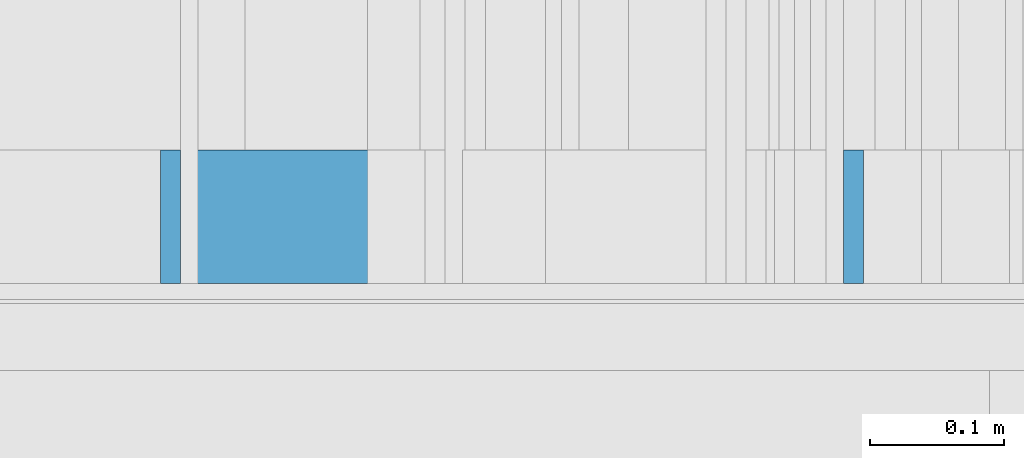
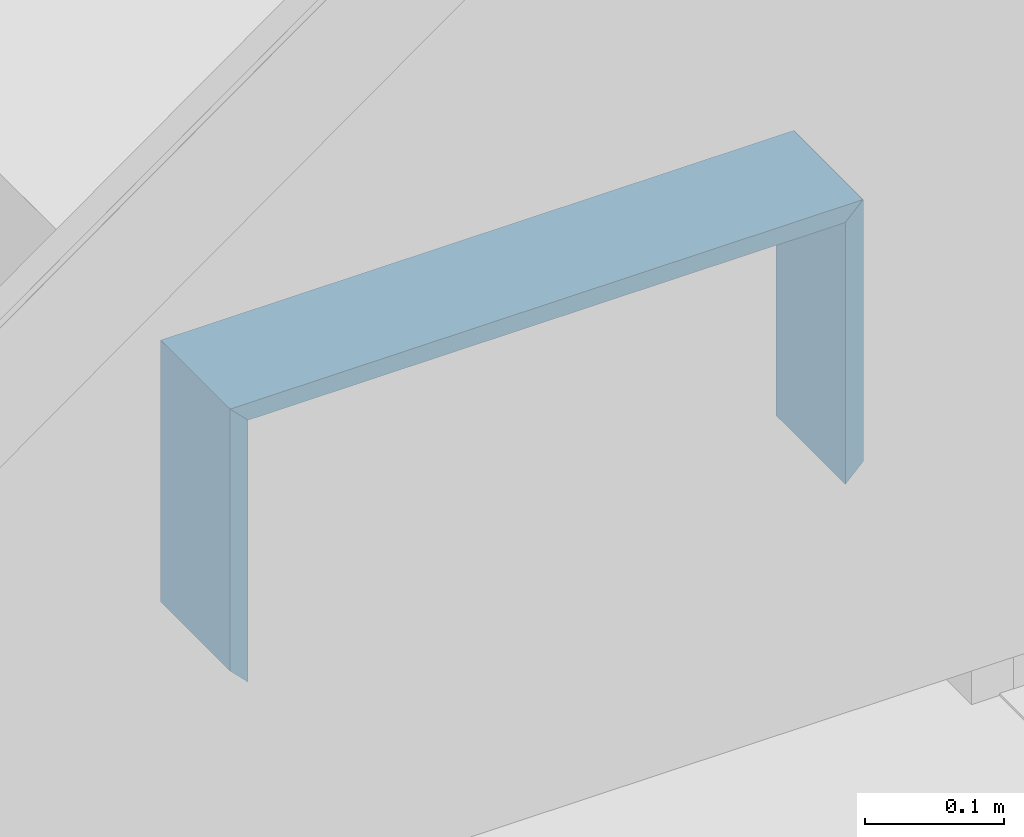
# One storey, part 213 of 583: 3 building element parts, 3 elements without a shape of their own.
"""IFC2X3 building model written with IfcOpenShell, lengths in metres."""

import ifcopenshell
import ifcopenshell.guid

model = None  # the IFC model being written
_history = None  # IfcOwnerHistory: only IFC2X3 demands one
_inside = {}  # id of a spatial element -> (the spatial element, [elements in it])
_under = {}  # id of a project, library or spatial element -> (it, [spatial elements below it])
_declared = {}  # id of a project -> (the project, [libraries it declares])
_typed = {}  # id of a type object -> (the type object, [elements of that type])
_made_of = {}  # id of a material, layer set ... -> (it, [elements and type objects made of it])


def new_model(schema):
    """Start an empty IFC model of exactly this schema.

    Asked for "IFC4X3", IfcOpenShell would pick the latest addendum, in which some entities
    have other attributes; the version numbers below select the first issue.
    IFC2X3 requires an IfcOwnerHistory on every rooted entity: one is made here for all.
    """
    global model, _history
    if schema == "IFC4X3":
        model = ifcopenshell.file(schema_version=(4, 3, 0, 0))
    else:
        model = ifcopenshell.file(schema=schema)
    _inside.clear()
    _under.clear()
    _declared.clear()
    _typed.clear()
    _made_of.clear()
    _history = None
    if model.schema == "IFC2X3":
        org = make("IfcOrganization", Name="unknown")
        user = make(
            "IfcPersonAndOrganization",
            ThePerson=make("IfcPerson", FamilyName="unknown"),
            TheOrganization=org,
        )
        app = make(
            "IfcApplication",
            ApplicationDeveloper=org,
            Version="unknown",
            ApplicationFullName="unknown",
            ApplicationIdentifier="unknown",
        )
        _history = make(
            "IfcOwnerHistory",
            OwningUser=user,
            OwningApplication=app,
            ChangeAction="ADDED",
            CreationDate=0,
        )
    return model


def make(cls, **values):
    """One entity of the class cls with the attributes given. An attribute that is None is left unset."""
    return model.create_entity(
        cls, **{name: value for name, value in values.items() if value is not None}
    )


def entity(cls, *values):
    """Any entity or typed value of the class cls, its attributes in the order of the schema. None: left unset."""
    e = model.create_entity(cls)
    for i, value in enumerate(values):
        if value is not None:
            e[i] = value
    return e


def rooted(cls, **values):
    """An entity with a GlobalId (a new one), such as an element, a storey or a relation."""
    return make(cls, GlobalId=ifcopenshell.guid.new(), OwnerHistory=_history, **values)


def si_unit(unit_type, name, prefix=None):
    """IfcSIUnit, for example si_unit("LENGTHUNIT", "METRE", prefix="MILLI")."""
    return make("IfcSIUnit", UnitType=unit_type, Prefix=prefix, Name=name)


def converted_unit(unit_type, name, factor, base, dimensions=None, offset=None):
    """IfcConversionBasedUnit, such as the inch: factor (a typed value) times the base unit."""
    return make(
        "IfcConversionBasedUnit"
        if offset is None
        else "IfcConversionBasedUnitWithOffset",
        ConversionOffset=offset,
        Dimensions=None
        if dimensions is None
        else entity("IfcDimensionalExponents", *dimensions),
        UnitType=unit_type,
        Name=name,
        ConversionFactor=make(
            "IfcMeasureWithUnit", ValueComponent=factor, UnitComponent=base
        ),
    )


def derived_unit(unit_type, elements):
    """IfcDerivedUnit: a product of units, each with its exponent."""
    return make(
        "IfcDerivedUnit",
        Elements=[
            make("IfcDerivedUnitElement", Unit=unit, Exponent=power)
            for unit, power in elements
        ],
        UnitType=unit_type,
    )


def money_unit(currency):
    """IfcMonetaryUnit."""
    return make("IfcMonetaryUnit", Currency=currency)


def assignment(units):
    """IfcUnitAssignment: the units of a project."""
    return None if units is None else make("IfcUnitAssignment", Units=units)


def point(xyz):
    """IfcCartesianPoint."""
    return None if xyz is None else make("IfcCartesianPoint", Coordinates=xyz)


def direction(xyz):
    """IfcDirection."""
    return None if xyz is None else make("IfcDirection", DirectionRatios=xyz)


def frame(location, z_axis=None, x_axis=None):
    """IfcAxis2Placement3D, a coordinate frame: its origin and axes. An axis left out is left unset."""
    return make(
        "IfcAxis2Placement3D",
        Location=point(location),
        Axis=direction(z_axis),
        RefDirection=direction(x_axis),
    )


def origin_with_axes():
    """The frame at (0, 0, 0) with the z axis (0, 0, 1) and the x axis (1, 0, 0) written out."""
    return frame((0.0, 0.0, 0.0), z_axis=(0.0, 0.0, 1.0), x_axis=(1.0, 0.0, 0.0))


def place(relative_to, where):
    """IfcLocalPlacement: puts the frame where relative to a parent placement (None: the world)."""
    return make(
        "IfcLocalPlacement", PlacementRelTo=relative_to, RelativePlacement=where
    )


def context(
    kind, dimensions, precision=None, world=None, true_north=None, identifier=None
):
    """IfcGeometricRepresentationContext, for example the 3D "Model" context."""
    return make(
        "IfcGeometricRepresentationContext",
        ContextIdentifier=identifier,
        ContextType=kind,
        CoordinateSpaceDimension=dimensions,
        Precision=precision,
        WorldCoordinateSystem=world,
        TrueNorth=true_north,
    )


def subcontext(parent, identifier, kind, view, scale=None):
    """IfcGeometricRepresentationSubContext, for example "Body" below "Model"."""
    return make(
        "IfcGeometricRepresentationSubContext",
        ContextIdentifier=identifier,
        ContextType=kind,
        ParentContext=parent,
        TargetScale=scale,
        TargetView=view,
    )


def project(units=None, contexts=None):
    """IfcProject with its units and contexts."""
    return rooted(
        "IfcProject",
        Name="project",
        RepresentationContexts=contexts,
        UnitsInContext=assignment(units),
    )


def spatial(cls, under=None, at=None, **own):
    """A site, building, storey or space (cls), placed at a placement, below another one or the project."""
    s = rooted(cls, ObjectPlacement=at, **own)
    if under is not None:
        _under.setdefault(under.id(), (under, []))[1].append(s)
    return s


def polyline(points):
    """IfcPolyline through the points."""
    return make("IfcPolyline", Points=[point(p) for p in points])


def outline(outer, holes=None, kind="AREA"):
    """IfcArbitraryClosedProfileDef: a profile drawn as a closed curve; with holes, ...WithVoids."""
    if holes is None:
        return make("IfcArbitraryClosedProfileDef", ProfileType=kind, OuterCurve=outer)
    return make(
        "IfcArbitraryProfileDefWithVoids",
        ProfileType=kind,
        OuterCurve=outer,
        InnerCurves=holes,
    )


def extrude(swept, where, along, depth):
    """IfcExtrudedAreaSolid: the profile swept, set in the frame where, extruded along a direction by depth."""
    return make(
        "IfcExtrudedAreaSolid",
        SweptArea=swept,
        Position=where,
        ExtrudedDirection=direction(along),
        Depth=depth,
    )


def shape(context_of_items, identifier, shape_type, items):
    """IfcShapeRepresentation: the items that make up one representation, for example the "Body"."""
    return make(
        "IfcShapeRepresentation",
        ContextOfItems=context_of_items,
        RepresentationIdentifier=identifier,
        RepresentationType=shape_type,
        Items=items,
    )


def material(Name=None, Category=None):
    """IfcMaterial."""
    return make("IfcMaterial", Name=Name, Category=Category)


def made_of(thing, what):
    """Note that an element or type object is made of a material, layer set ...; save() writes the relation."""
    if what is not None:
        _made_of.setdefault(what.id(), (what, []))[1].append(thing)
    return thing


def type_object(cls, material=None, **own):
    """A type object (cls), such as IfcWallType, which elements share."""
    return made_of(rooted(cls, **own), material)


def element(
    cls,
    number,
    at=None,
    inside=None,
    cuts=None,
    type_object=None,
    material=None,
    context=None,
    identifier="Body",
    shape_type=None,
    held_by="IfcProductDefinitionShape",
    body=None,
    shapes=None,
    **own,
):
    """One element of the class cls, such as IfcWall. Its Tag is "e" and its number.

    at: its placement. inside: the storey or other place that contains it. cuts: it is an
    opening in that element (IfcRelVoidsElement). A single representation is given by context,
    identifier, shape_type and body (its items); several are given by shapes. held_by: the class
    of the entity that holds the representations. save() writes the other relations.
    """
    e = rooted(cls, Tag="e%d" % number, ObjectPlacement=at, **own)
    if body is not None:
        shapes = [shape(context, identifier, shape_type, body)]
    if shapes is not None:
        e.Representation = make(held_by, Representations=shapes)
    if inside is not None:
        _inside.setdefault(inside.id(), (inside, []))[1].append(e)
    if cuts is not None:
        rooted(
            "IfcRelVoidsElement", RelatingBuildingElement=cuts, RelatedOpeningElement=e
        )
    if type_object is not None:
        _typed.setdefault(type_object.id(), (type_object, []))[1].append(e)
    return made_of(e, material)


def aggregate(whole, parts):
    """IfcRelAggregates: a whole, such as a stair, and the parts it consists of."""
    return rooted("IfcRelAggregates", RelatingObject=whole, RelatedObjects=parts)


def save(model, path):
    """Write the relations noted so far, then the file.

    IfcRelAggregates (storeys below a building ...), IfcRelContainedInSpatialStructure (elements
    in a storey), IfcRelDefinesByType, IfcRelAssociatesMaterial and IfcRelDeclares: one each for
    every whole, place, type object, material and project.
    """
    for whole, parts in _under.values():
        aggregate(whole, parts)
    for where, things in _inside.values():
        rooted(
            "IfcRelContainedInSpatialStructure",
            RelatedElements=things,
            RelatingStructure=where,
        )
    for kind, things in _typed.values():
        rooted("IfcRelDefinesByType", RelatedObjects=things, RelatingType=kind)
    for what, things in _made_of.values():
        rooted("IfcRelAssociatesMaterial", RelatedObjects=things, RelatingMaterial=what)
    for by, libraries in _declared.values():
        rooted("IfcRelDeclares", RelatingContext=by, RelatedDefinitions=libraries)
    model.write(path)


model = new_model("IFC2X3")

# Units and contexts
model_context = context("Model", 3, precision=1e-05, world=origin_with_axes(), true_north=direction((0.0, 1.0)))
body_context = subcontext(model_context, "Body", "Model", "MODEL_VIEW", scale=1.0)
ifc_project = project(units=[si_unit("LENGTHUNIT", "METRE"), si_unit("AREAUNIT", "SQUARE_METRE"), si_unit("VOLUMEUNIT", "CUBIC_METRE"), si_unit("ABSORBEDDOSEUNIT", "GRAY"), si_unit("AMOUNTOFSUBSTANCEUNIT", "MOLE"), si_unit("DOSEEQUIVALENTUNIT", "SIEVERT"), si_unit("ELECTRICCAPACITANCEUNIT", "FARAD"), si_unit("ELECTRICCHARGEUNIT", "COULOMB"), si_unit("ELECTRICCONDUCTANCEUNIT", "SIEMENS"), si_unit("ELECTRICCURRENTUNIT", "AMPERE"), si_unit("ELECTRICRESISTANCEUNIT", "OHM"), si_unit("ELECTRICVOLTAGEUNIT", "VOLT"), si_unit("ENERGYUNIT", "JOULE"), si_unit("FORCEUNIT", "NEWTON"), si_unit("FREQUENCYUNIT", "HERTZ"), si_unit("ILLUMINANCEUNIT", "LUX"), si_unit("INDUCTANCEUNIT", "HENRY"), si_unit("LUMINOUSFLUXUNIT", "LUMEN"), si_unit("LUMINOUSINTENSITYUNIT", "CANDELA"), si_unit("MAGNETICFLUXDENSITYUNIT", "TESLA"), si_unit("MAGNETICFLUXUNIT", "WEBER"), si_unit("MASSUNIT", "GRAM"), converted_unit("PLANEANGLEUNIT", "degree", entity("IfcReal", 0.0174532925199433), si_unit("PLANEANGLEUNIT", "RADIAN"), dimensions=[0, 0, 0, 0, 0, 0, 0]), si_unit("POWERUNIT", "WATT"), si_unit("PRESSUREUNIT", "PASCAL"), si_unit("RADIOACTIVITYUNIT", "BECQUEREL"), si_unit("SOLIDANGLEUNIT", "STERADIAN"), si_unit("THERMODYNAMICTEMPERATUREUNIT", "KELVIN"), si_unit("TIMEUNIT", "SECOND"), derived_unit("ACCELERATIONUNIT", [(si_unit("LENGTHUNIT", "METRE"), 1), (si_unit("TIMEUNIT", "SECOND"), -2)]), derived_unit("ANGULARVELOCITYUNIT", [(converted_unit("PLANEANGLEUNIT", "degree", entity("IfcReal", 0.0174532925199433), si_unit("PLANEANGLEUNIT", "RADIAN"), dimensions=[0, 0, 0, 0, 0, 0, 0]), 1), (si_unit("TIMEUNIT", "SECOND"), -1)]), derived_unit("CURVATUREUNIT", [(converted_unit("PLANEANGLEUNIT", "degree", entity("IfcReal", 0.0174532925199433), si_unit("PLANEANGLEUNIT", "RADIAN"), dimensions=[0, 0, 0, 0, 0, 0, 0]), 1), (si_unit("LENGTHUNIT", "METRE"), -1)]), derived_unit("DYNAMICVISCOSITYUNIT", [(si_unit("PRESSUREUNIT", "PASCAL"), 1), (si_unit("TIMEUNIT", "SECOND"), 1)]), derived_unit("HEATFLUXDENSITYUNIT", [(si_unit("POWERUNIT", "WATT"), 1), (si_unit("LENGTHUNIT", "METRE"), -2)]), derived_unit("HEATINGVALUEUNIT", [(si_unit("ENERGYUNIT", "JOULE"), 1), (si_unit("MASSUNIT", "GRAM"), -1)]), derived_unit("INTEGERCOUNTRATEUNIT", [(si_unit("TIMEUNIT", "SECOND"), -1)]), derived_unit("IONCONCENTRATIONUNIT", [(si_unit("MASSUNIT", "GRAM"), 1), (si_unit("VOLUMEUNIT", "CUBIC_METRE"), -1)]), derived_unit("ISOTHERMALMOISTURECAPACITYUNIT", [(si_unit("VOLUMEUNIT", "CUBIC_METRE"), 1), (si_unit("MASSUNIT", "GRAM"), -1)]), derived_unit("KINEMATICVISCOSITYUNIT", [(si_unit("AREAUNIT", "SQUARE_METRE"), 1), (si_unit("TIMEUNIT", "SECOND"), -1)]), derived_unit("LINEARFORCEUNIT", [(si_unit("FORCEUNIT", "NEWTON"), 1), (si_unit("LENGTHUNIT", "METRE"), -1)]), derived_unit("LINEARMOMENTUNIT", [(si_unit("FORCEUNIT", "NEWTON"), 1), (si_unit("LENGTHUNIT", "METRE"), -1)]), derived_unit("LINEARSTIFFNESSUNIT", [(si_unit("FORCEUNIT", "NEWTON"), 1), (si_unit("LENGTHUNIT", "METRE"), -1)]), derived_unit("LINEARVELOCITYUNIT", [(si_unit("LENGTHUNIT", "METRE"), 1), (si_unit("TIMEUNIT", "SECOND"), -1)]), derived_unit("LUMINOUSINTENSITYDISTRIBUTIONUNIT", [(si_unit("LUMINOUSINTENSITYUNIT", "CANDELA"), 1), (si_unit("LUMINOUSFLUXUNIT", "LUMEN"), -1)]), derived_unit("MASSDENSITYUNIT", [(si_unit("MASSUNIT", "GRAM"), 1), (si_unit("VOLUMEUNIT", "CUBIC_METRE"), -1)]), derived_unit("MASSFLOWRATEUNIT", [(si_unit("MASSUNIT", "GRAM"), 1), (si_unit("TIMEUNIT", "SECOND"), -1)]), derived_unit("MASSPERLENGTHUNIT", [(si_unit("MASSUNIT", "GRAM"), 1), (si_unit("LENGTHUNIT", "METRE"), -1)]), derived_unit("MODULUSOFELASTICITYUNIT", [(si_unit("FORCEUNIT", "NEWTON"), 1), (si_unit("AREAUNIT", "SQUARE_METRE"), -1)]), derived_unit("MODULUSOFLINEARSUBGRADEREACTIONUNIT", [(si_unit("FORCEUNIT", "NEWTON"), 1), (si_unit("LENGTHUNIT", "METRE"), -2)]), derived_unit("MODULUSOFROTATIONALSUBGRADEREACTIONUNIT", [(si_unit("FORCEUNIT", "NEWTON"), 1), (si_unit("LENGTHUNIT", "METRE"), 1)]), derived_unit("MODULUSOFSUBGRADEREACTIONUNIT", [(si_unit("FORCEUNIT", "NEWTON"), 1), (si_unit("VOLUMEUNIT", "CUBIC_METRE"), -1)]), derived_unit("MOISTUREDIFFUSIVITYUNIT", [(si_unit("VOLUMEUNIT", "CUBIC_METRE"), 1), (si_unit("TIMEUNIT", "SECOND"), -1)]), derived_unit("MOLECULARWEIGHTUNIT", [(si_unit("MASSUNIT", "GRAM"), 1), (si_unit("AMOUNTOFSUBSTANCEUNIT", "MOLE"), -1)]), derived_unit("PLANARFORCEUNIT", [(si_unit("FORCEUNIT", "NEWTON"), 1), (si_unit("LENGTHUNIT", "METRE"), -2)]), derived_unit("ROTATIONALFREQUENCYUNIT", [(si_unit("TIMEUNIT", "SECOND"), -1)]), derived_unit("ROTATIONALMASSUNIT", [(si_unit("MASSUNIT", "GRAM"), 1), (si_unit("LENGTHUNIT", "METRE"), 2)]), derived_unit("ROTATIONALSTIFFNESSUNIT", [(si_unit("FORCEUNIT", "NEWTON"), 1), (si_unit("LENGTHUNIT", "METRE"), 1), (converted_unit("PLANEANGLEUNIT", "degree", entity("IfcReal", 0.0174532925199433), si_unit("PLANEANGLEUNIT", "RADIAN"), dimensions=[0, 0, 0, 0, 0, 0, 0]), -1)]), derived_unit("SECTIONAREAINTEGRALUNIT", [(si_unit("LENGTHUNIT", "METRE"), 5)]), derived_unit("SECTIONMODULUSUNIT", [(si_unit("LENGTHUNIT", "METRE"), 3)]), derived_unit("SHEARMODULUSUNIT", [(si_unit("FORCEUNIT", "NEWTON"), 1), (si_unit("AREAUNIT", "SQUARE_METRE"), -1)]), derived_unit("SOUNDPOWERUNIT", [(si_unit("ENERGYUNIT", "JOULE"), 1), (si_unit("TIMEUNIT", "SECOND"), -1)]), derived_unit("SPECIFICHEATCAPACITYUNIT", [(si_unit("FORCEUNIT", "NEWTON"), 1), (si_unit("MASSUNIT", "GRAM"), -1), (si_unit("THERMODYNAMICTEMPERATUREUNIT", "KELVIN"), -1)]), derived_unit("TEMPERATUREGRADIENTUNIT", [(si_unit("THERMODYNAMICTEMPERATUREUNIT", "KELVIN"), 1), (si_unit("LENGTHUNIT", "METRE"), -1)]), derived_unit("THERMALADMITTANCEUNIT", [(si_unit("POWERUNIT", "WATT"), 1), (si_unit("AREAUNIT", "SQUARE_METRE"), -1), (si_unit("THERMODYNAMICTEMPERATUREUNIT", "KELVIN"), -1)]), derived_unit("THERMALCONDUCTANCEUNIT", [(si_unit("POWERUNIT", "WATT"), 1), (si_unit("LENGTHUNIT", "METRE"), -1), (si_unit("THERMODYNAMICTEMPERATUREUNIT", "KELVIN"), -1)]), derived_unit("THERMALEXPANSIONCOEFFICIENTUNIT", [(si_unit("THERMODYNAMICTEMPERATUREUNIT", "KELVIN"), -1)]), derived_unit("THERMALRESISTANCEUNIT", [(si_unit("AREAUNIT", "SQUARE_METRE"), 1), (si_unit("POWERUNIT", "WATT"), -1)]), derived_unit("THERMALTRANSMITTANCEUNIT", [(si_unit("POWERUNIT", "WATT"), 1), (si_unit("AREAUNIT", "SQUARE_METRE"), -1), (si_unit("THERMODYNAMICTEMPERATUREUNIT", "KELVIN"), -1)]), derived_unit("TORQUEUNIT", [(si_unit("FORCEUNIT", "NEWTON"), 1), (si_unit("LENGTHUNIT", "METRE"), 1)]), derived_unit("VAPORPERMEABILITYUNIT", [(si_unit("MASSUNIT", "GRAM"), 1), (si_unit("TIMEUNIT", "SECOND"), -1)]), derived_unit("VOLUMETRICFLOWRATEUNIT", [(si_unit("VOLUMEUNIT", "CUBIC_METRE"), 1), (si_unit("TIMEUNIT", "SECOND"), -1)]), derived_unit("WARPINGCONSTANTUNIT", [(si_unit("LENGTHUNIT", "METRE"), 6)]), derived_unit("WARPINGMOMENTUNIT", [(si_unit("FORCEUNIT", "NEWTON"), 1), (si_unit("LENGTHUNIT", "METRE"), 2)]), money_unit("GBP")], contexts=[model_context])

# Site, building, storey
site_placement = place(None, origin_with_axes())
site = spatial("IfcSite", under=ifc_project, at=site_placement, Name="Site", CompositionType="ELEMENT")
building_placement = place(site_placement, origin_with_axes())
building = spatial("IfcBuilding", under=site, at=building_placement, Name="Building01", CompositionType="ELEMENT")
storey_placement = place(building_placement, frame((0.0, 0.0, 20.78), z_axis=(0.0, 0.0, 1.0), x_axis=(1.0, 0.0, 0.0)))
storey = spatial("IfcBuildingStorey", under=building, at=storey_placement, Name="RL", CompositionType="ELEMENT", Elevation=20.78)

# Wall, building element part
wall_type = type_object("IfcWallType", Name="SHE_A-Walls_Type06d_ExternalWallInsulation_48mm", PredefinedType="NOTDEFINED")
wall_1_placement = place(storey_placement, frame((6.5, 12.13, -20.51), z_axis=(0.0, 1.0, 0.0), x_axis=(0.0, 0.0, 1.0)))
wall_1 = element("IfcWall", 1, at=wall_1_placement, inside=storey, type_object=wall_type, Name="6D", ObjectType="SHE_A-Walls_Type06d_ExternalWallInsulation_48mm")
ifc_material = material(Name="A_BSUK_Walls_Timber")
building_element_part_1_placement = place(wall_1_placement, origin_with_axes())
building_element_part_1 = element("IfcBuildingElementPart", 2, at=building_element_part_1_placement, material=ifc_material, Name="2", context=body_context, shape_type="SweptSolid", body=[
    extrude(outline(polyline([(0.293, 0.063), (0.063, 0.063), (0.048, 0.048), (0.278, 0.048), (0.293, 0.063)])), frame((0.0, 0.0, 0.015), z_axis=(0.0, 0.0, 1.0), x_axis=(1.0, 0.0, 0.0)), (0.0, 0.0, 1.0), 0.1),
])
aggregate(wall_1, [building_element_part_1])

wall_2_placement = place(storey_placement, frame((6.5, 12.13, -20.28), z_axis=(0.0, 1.0, 0.0), x_axis=(-1.0, 0.0, 0.0)))
wall_2 = element("IfcWall", 3, at=wall_2_placement, inside=storey, type_object=wall_type, Name="6D", ObjectType="SHE_A-Walls_Type06d_ExternalWallInsulation_48mm")
building_element_part_2_placement = place(wall_2_placement, origin_with_axes())
building_element_part_2 = element("IfcBuildingElementPart", 4, at=building_element_part_2_placement, material=ifc_material, Name="2", context=body_context, shape_type="SweptSolid", body=[
    extrude(outline(polyline([(0.463, 0.063), (-0.063, 0.063), (-0.048, 0.048), (0.448, 0.048), (0.463, 0.063)])), frame((0.0, 0.0, 0.015), z_axis=(0.0, 0.0, 1.0), x_axis=(1.0, 0.0, 0.0)), (0.0, 0.0, 1.0), 0.1),
])
aggregate(wall_2, [building_element_part_2])

wall_3_placement = place(storey_placement, frame((6.1, 12.13, -20.28), z_axis=(0.0, 1.0, 0.0), x_axis=(0.0, 0.0, -1.0)))
wall_3 = element("IfcWall", 5, at=wall_3_placement, inside=storey, type_object=wall_type, Name="6D", ObjectType="SHE_A-Walls_Type06d_ExternalWallInsulation_48mm")
building_element_part_3_placement = place(wall_3_placement, origin_with_axes())
building_element_part_3 = element("IfcBuildingElementPart", 6, at=building_element_part_3_placement, material=ifc_material, Name="2", context=body_context, shape_type="SweptSolid", body=[
    extrude(outline(polyline([(0.167, 0.063), (-0.063, 0.063), (-0.048, 0.048), (0.182, 0.048), (0.167, 0.063)])), frame((0.0, 0.0, 0.015), z_axis=(0.0, 0.0, 1.0), x_axis=(1.0, 0.0, 0.0)), (0.0, 0.0, 1.0), 0.1),
])
aggregate(wall_3, [building_element_part_3])

save(model, "model.ifc")
